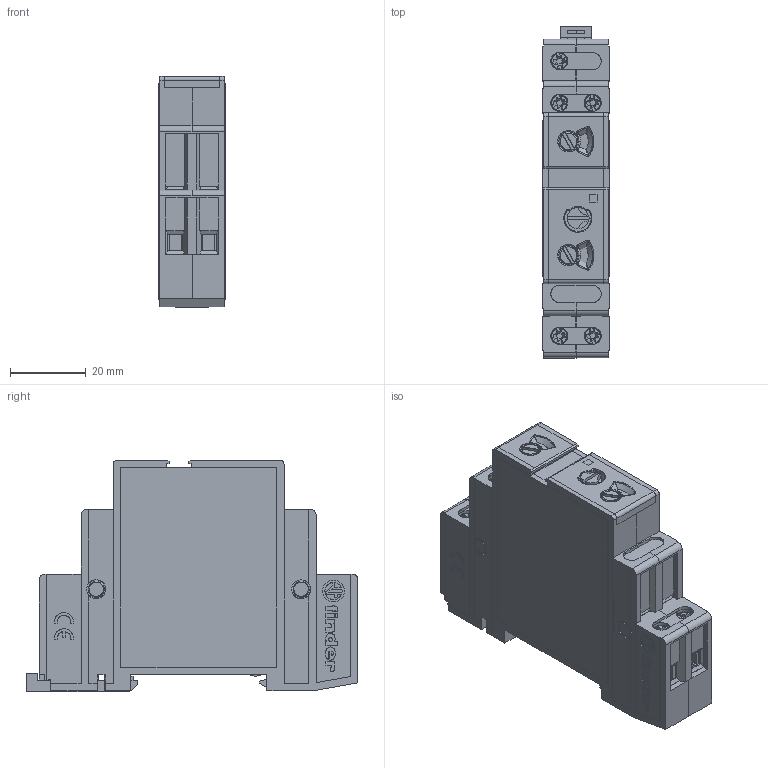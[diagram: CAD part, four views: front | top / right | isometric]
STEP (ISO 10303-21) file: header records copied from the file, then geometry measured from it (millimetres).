
FILE_DESCRIPTION(('STEP AP214'),'2;1');
FILE_NAME('80_82---complessivo___OK.stp','2011-02-04T14:47:40',(''),(''),'2007.1.106','THINKDESIGN','');
FILE_SCHEMA(('AUTOMOTIVE_DESIGN'));
Products named in the file (1): None
Bounding box: 17.6 x 87.5 x 61 mm (x, y, z)
Surface area: 17126.2 mm2 (no closed solid volume)
Topology: 0 solids, 0 shells, 957 faces, 5445 edges, 5396 vertices
Faces by surface type: plane 738, bspline 139, cylinder 80
Full cylindrical faces by diameter (mm): 3 x2, 4.2 x4, 4.5 x5, 5 x6, 6.4 x1
Entity records: 62162 total; most frequent: CARTESIAN_POINT 23695, DIRECTION 6433, COMPOSITE_CURVE_SEGMENT 5437, TRIMMED_CURVE 4573, VECTOR 4393, LINE 4393, AXIS2_PLACEMENT_3D 1020, OUTER_BOUNDARY_CURVE 957
